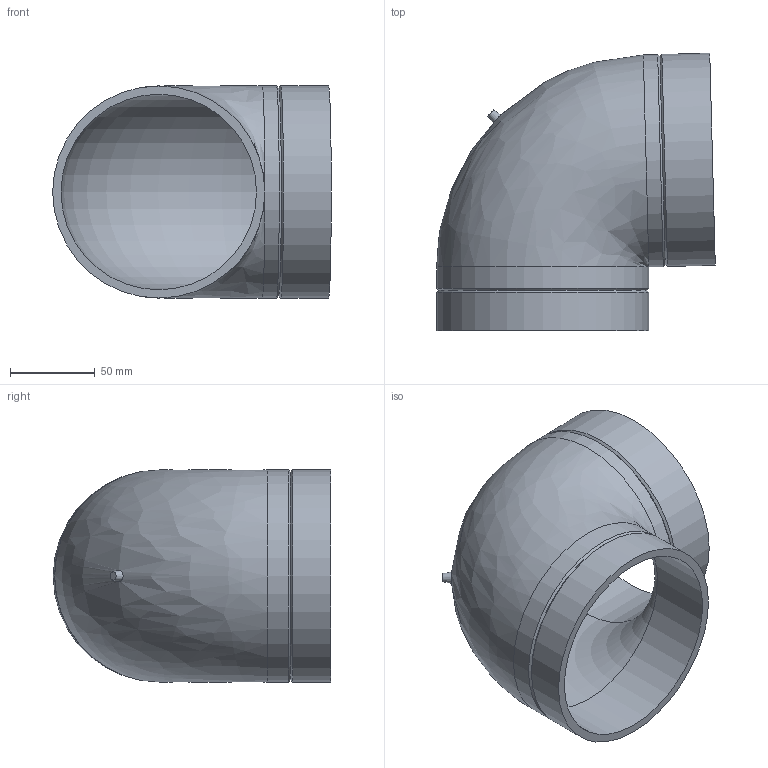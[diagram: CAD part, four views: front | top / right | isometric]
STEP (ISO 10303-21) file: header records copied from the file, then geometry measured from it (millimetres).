
FILE_DESCRIPTION(/* description */ (''),/* implementation_level */ '2;1');
FILE_NAME(/* name */ 'Z:\Geberit\Export\NewStep\368088.stp',/* time_stamp */ '2014-04-02T07:59:47+02:00',/* author */ ('nelson'),/* organization */ (''),/* preprocessor_version */ 'ST-DEVELOPER v15.2',/* originating_system */ 'Autodesk Inventor 2014',/* authorisation */ '');
FILE_SCHEMA (('AUTOMOTIVE_DESIGN { 1 0 10303 214 3 1 1 }'));
Length unit declared in the file: millimetre
Products named in the file (1): 368088
Bounding box: 164.14 x 163.5 x 125 mm (x, y, z)
Volume: 321378.2 mm3; surface area: 135365.1 mm2
Topology: 1 solids, 1 shells, 16 faces, 34 edges, 19 vertices
Faces by surface type: cylinder 6, cone 5, plane 3, torus 1, bspline 1
Full cylindrical faces by diameter (mm): 115.2 x2, 125 x4
Entity records: 459 total; most frequent: CARTESIAN_POINT 169, DIRECTION 62, ORIENTED_EDGE 32, EDGE_LOOP 31, AXIS2_PLACEMENT_3D 31, FACE_BOUND 18, EDGE_CURVE 16, ADVANCED_FACE 16
